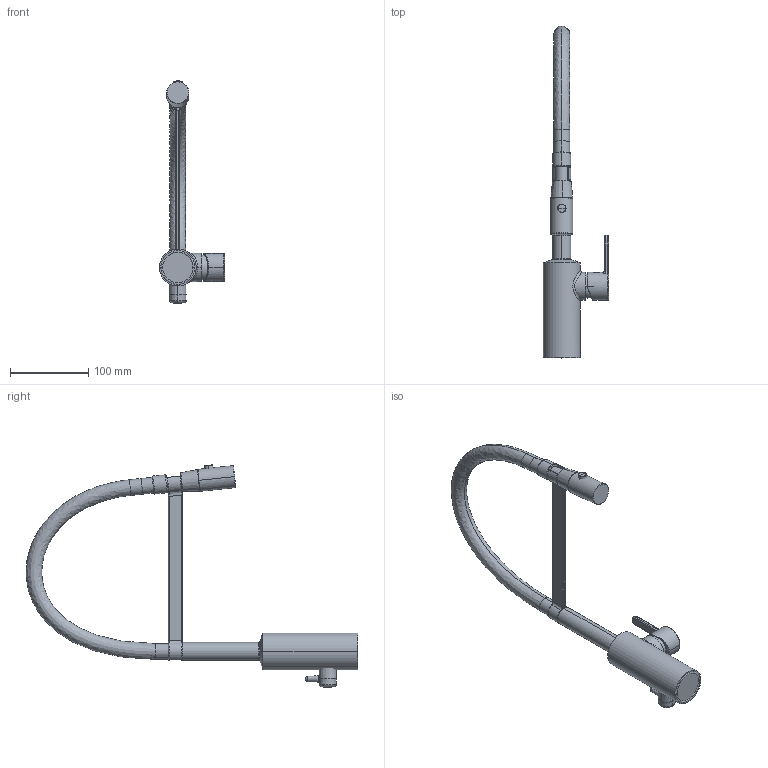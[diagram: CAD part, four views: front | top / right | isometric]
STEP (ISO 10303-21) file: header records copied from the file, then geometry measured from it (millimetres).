
FILE_DESCRIPTION((''),'2;1');
FILE_NAME('74158--00_SUB01_SW0001','2026-09-04T11:45:43',('clra1'),(''),'CREO PARAMETRIC BY PTC INC, 2022244','CREO PARAMETRIC BY PTC INC, 2022244','');
FILE_SCHEMA(('CONFIG_CONTROL_DESIGN'));
Length unit declared in the file: millimetre
Products named in the file (1): 74158--00_SUB01_SW0001
Bounding box: 83.2 x 423.14 x 283.2 mm (x, y, z)
Surface area: 91412.5 mm2 (no closed solid volume)
Topology: 0 solids, 21 shells, 197 faces, 495 edges, 309 vertices
Faces by surface type: cylinder 55, bspline 49, torus 39, plane 30, cone 11, sphere 9, extrusion 4
Entity records: 10365 total; most frequent: CARTESIAN_POINT 6004, DIRECTION 901, ORIENTED_EDGE 860, EDGE_CURVE 489, AXIS2_PLACEMENT_3D 394, VERTEX_POINT 309, CIRCLE 250, EDGE_LOOP 197
